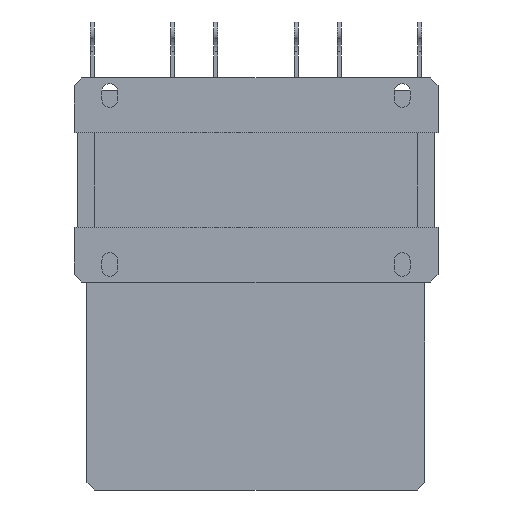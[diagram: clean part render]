
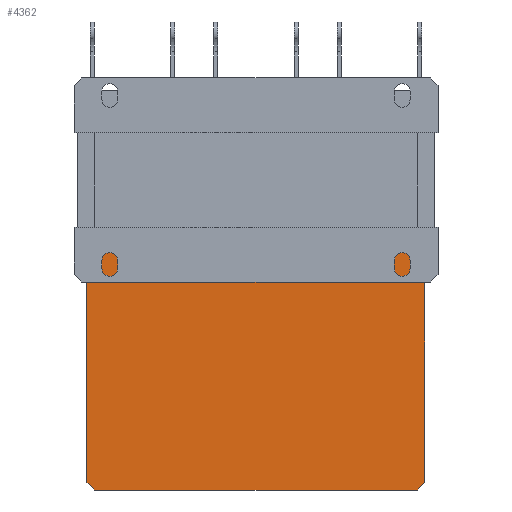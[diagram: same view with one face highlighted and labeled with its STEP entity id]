
A CAD part, front view. The second image highlights one B-rep face of the part: STEP entity #4362.
In plain terms, the highlighted planar face has unit normal (0, -1, 0).
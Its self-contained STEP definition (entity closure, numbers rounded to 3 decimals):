
#522=FACE_OUTER_BOUND('',#808,.T.);
#808=EDGE_LOOP('',(#3715,#3716,#3717,#3718,#3719,#3720));
#1205=LINE('',#7094,#1655);
#1211=LINE('',#7105,#1661);
#1217=LINE('',#7117,#1667);
#1221=LINE('',#7125,#1671);
#1222=LINE('',#7128,#1672);
#1226=LINE('',#7135,#1676);
#1655=VECTOR('',#5820,10.);
#1661=VECTOR('',#5828,10.);
#1667=VECTOR('',#5838,10.);
#1671=VECTOR('',#5844,10.);
#1672=VECTOR('',#5847,10.);
#1676=VECTOR('',#5853,10.);
#2075=VERTEX_POINT('',#7092);
#2076=VERTEX_POINT('',#7093);
#2080=VERTEX_POINT('',#7103);
#2084=VERTEX_POINT('',#7115);
#2087=VERTEX_POINT('',#7123);
#2088=VERTEX_POINT('',#7127);
#2623=EDGE_CURVE('',#2075,#2076,#1205,.T.);
#2629=EDGE_CURVE('',#2075,#2080,#1211,.T.);
#2635=EDGE_CURVE('',#2084,#2080,#1217,.T.);
#2639=EDGE_CURVE('',#2087,#2084,#1221,.T.);
#2640=EDGE_CURVE('',#2076,#2088,#1222,.T.);
#2644=EDGE_CURVE('',#2087,#2088,#1226,.T.);
#3715=ORIENTED_EDGE('',*,*,#2623,.F.);
#3716=ORIENTED_EDGE('',*,*,#2629,.T.);
#3717=ORIENTED_EDGE('',*,*,#2635,.F.);
#3718=ORIENTED_EDGE('',*,*,#2639,.F.);
#3719=ORIENTED_EDGE('',*,*,#2644,.T.);
#3720=ORIENTED_EDGE('',*,*,#2640,.F.);
#4126=PLANE('',#4787);
#4362=ADVANCED_FACE('',(#522),#4126,.T.);
#4787=AXIS2_PLACEMENT_3D('',#7140,#5860,#5861);
#5820=DIRECTION('',(-0.707,0.,0.707));
#5828=DIRECTION('',(1.,0.,0.));
#5838=DIRECTION('',(-0.707,0.,-0.707));
#5844=DIRECTION('',(0.,0.,-1.));
#5847=DIRECTION('',(0.,0.,1.));
#5853=DIRECTION('',(-1.,0.,0.));
#5860=DIRECTION('center_axis',(0.,-1.,0.));
#5861=DIRECTION('ref_axis',(0.,0.,-1.));
#7092=CARTESIAN_POINT('',(-124.,35.,-238.5));
#7093=CARTESIAN_POINT('',(-130.,35.,-232.5));
#7094=CARTESIAN_POINT('',(-143.375,35.,-219.125));
#7103=CARTESIAN_POINT('',(124.,35.,-238.5));
#7105=CARTESIAN_POINT('',(0.,35.,-238.5));
#7115=CARTESIAN_POINT('',(130.,35.,-232.5));
#7117=CARTESIAN_POINT('',(143.375,35.,-219.125));
#7123=CARTESIAN_POINT('',(130.,35.,-43.));
#7125=CARTESIAN_POINT('',(130.,35.,-43.));
#7127=CARTESIAN_POINT('',(-130.,35.,-43.));
#7128=CARTESIAN_POINT('',(-130.,35.,-43.));
#7135=CARTESIAN_POINT('',(0.,35.,-43.));
#7140=CARTESIAN_POINT('Origin',(0.,35.,-43.));
